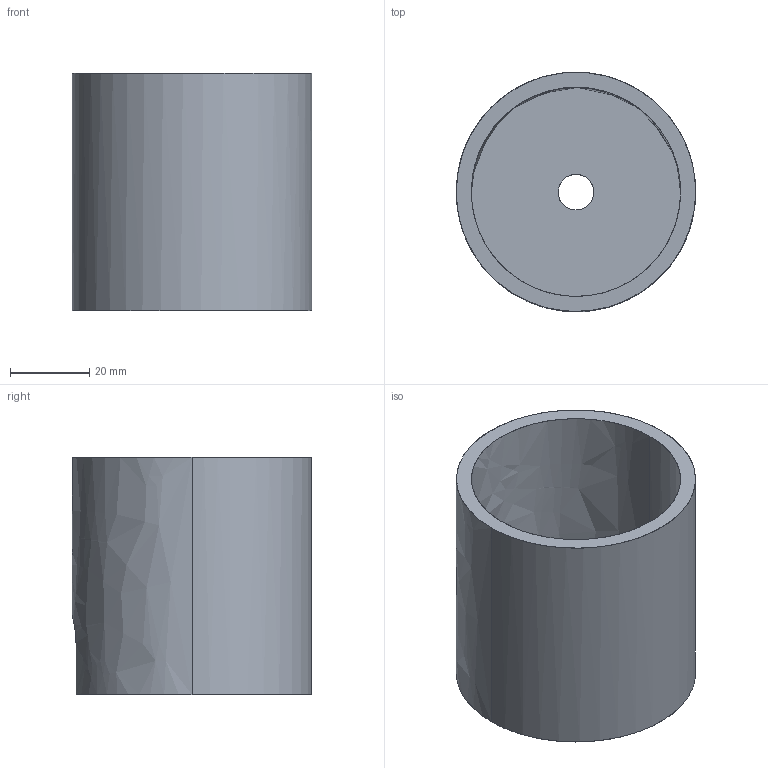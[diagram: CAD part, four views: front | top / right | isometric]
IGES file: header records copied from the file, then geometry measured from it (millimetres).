
Global section: file name: E:\UnigraphicsGraphicData\MISUMI_PRESS-PARTS\IGES\3d_phn40-60-r_07080_r00.igs; native system: NX V5.0; preprocessor: UGS NX IGES V5.0; author: MISUMI; date: 20110105.162250; units: millimetre
Bounding box: 60.5 x 60.5 x 60 mm (x, y, z)
Surface area: 26881.8 mm2 (no closed solid volume)
Topology: 0 solids, 0 shells, 15 faces, 174 edges, 174 vertices
Faces by surface type: bspline 15
